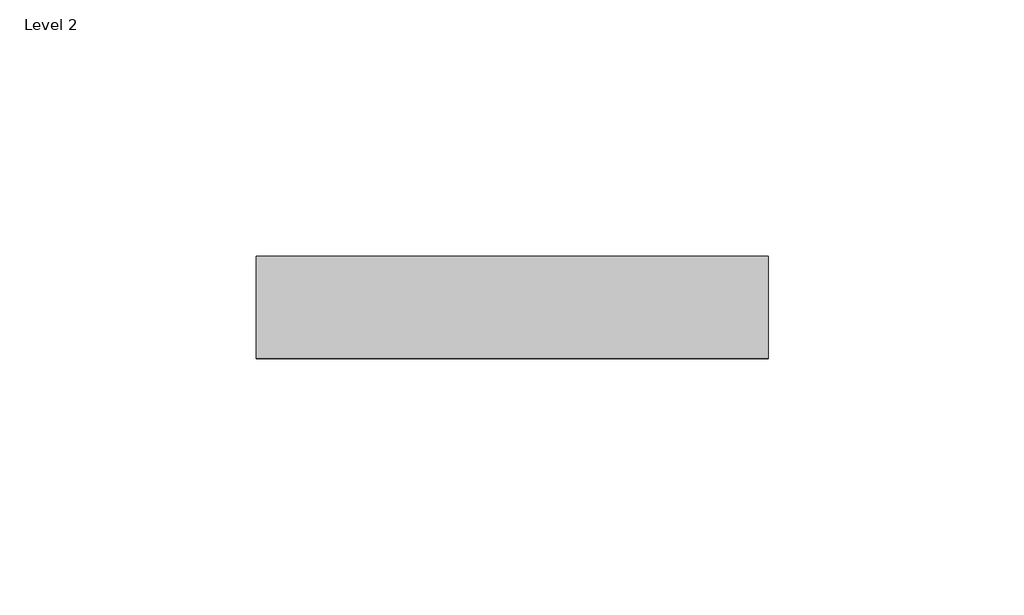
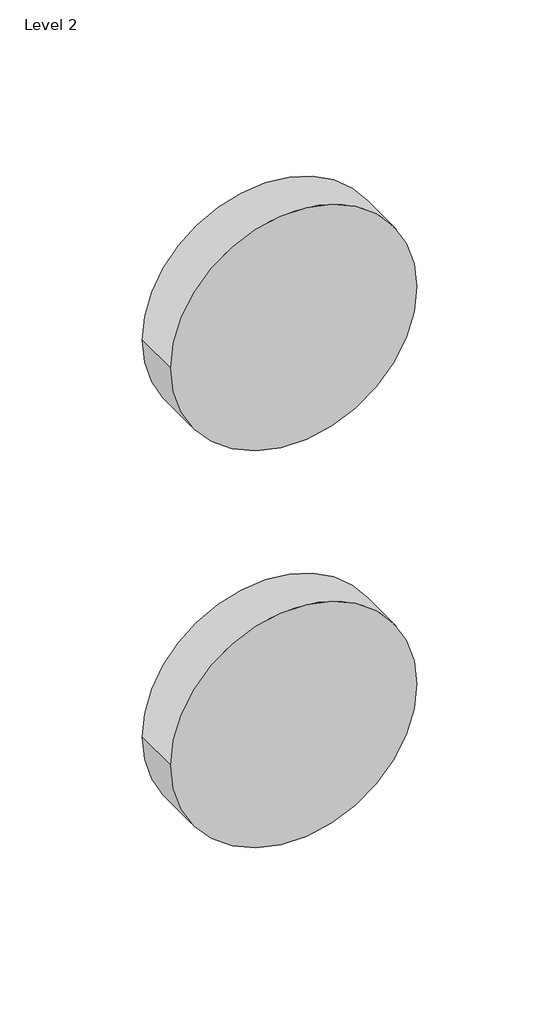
# One storey: 2 proxies.
"""IFC4 building model written with IfcOpenShell, lengths in millimetres."""

from ifc_helpers import new_model, si_unit, origin, place, context, project, spatial, transform, mapped, element, save
from components import materialmodel_materialmodel_13df9e44

model = new_model("IFC4")

# Units and contexts
model_context = context("Model", 3, world=origin())
ifc_project = project(units=[si_unit("LENGTHUNIT", "METRE", prefix="MILLI")], contexts=[model_context])

# Site, building, storey
site = spatial("IfcSite", under=ifc_project)
building = spatial("IfcBuilding", under=site)
storey = spatial("IfcBuildingStorey", under=building, Name="Level 2", Elevation=4000.0)

# Proxies
placement = place(None, origin())
materialmodel_materialmodel_shape = materialmodel_materialmodel_13df9e44(model_context)
element("IfcBuildingElementProxy", 1, Name="MaterialModel : MaterialModel", ObjectType="MaterialModel : MaterialModel", at=placement, inside=storey, context=model_context, shape_type="MappedRepresentation", body=[
    mapped(materialmodel_materialmodel_shape, transform((-3606.0723901, 28.2129507, 188.4886719), x_axis=(1.0, 0.0, 0.0), y_axis=(0.0, 1.0, 0.0), z_axis=(0.0, 0.0, 1.0))),
])
element("IfcBuildingElementProxy", 2, Name="MaterialModel : MaterialModel", ObjectType="MaterialModel : MaterialModel", at=placement, inside=storey, context=model_context, shape_type="MappedRepresentation", body=[
    mapped(materialmodel_materialmodel_shape, transform((-3606.0723901, 28.2129507, 358.9696195), x_axis=(1.0, 0.0, 0.0), y_axis=(0.0, 1.0, 0.0), z_axis=(0.0, 0.0, 1.0))),
])

save(model, "model.ifc")
